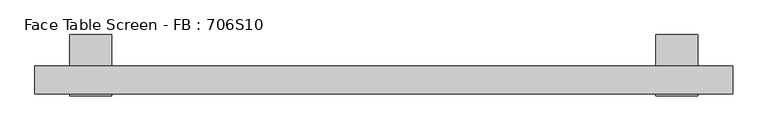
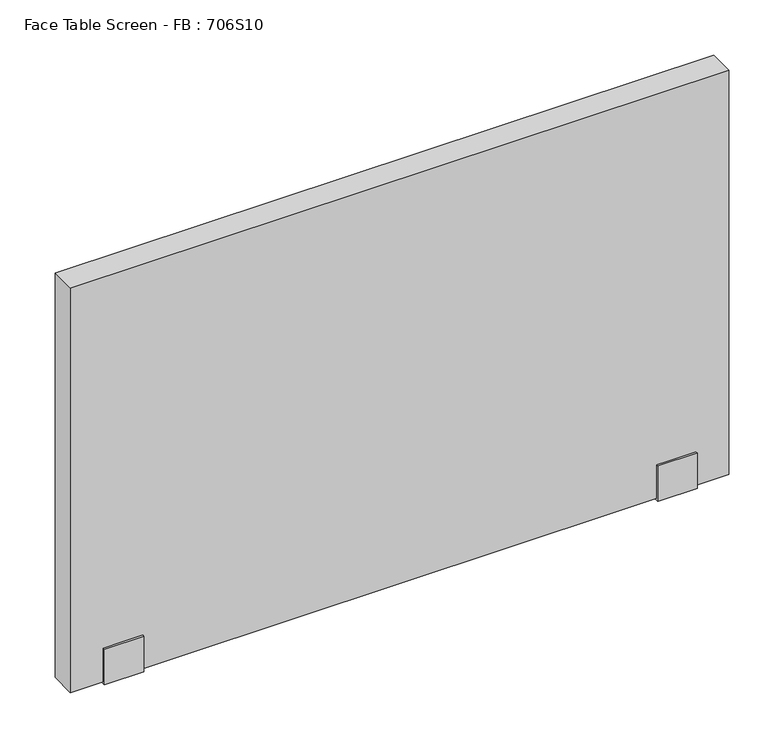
"""IFC4 building model written with IfcOpenShell, lengths in millimetres: furniture geometry, Face Table Screen - FB : 706S10."""

from ifc_helpers import new_model, si_unit, frame, origin, place, context, project, spatial, polyline, outline, extrude, source, transform, mapped, element, save


def face_table_screen_fb_706s10_e50b1dd3(model_context):
    return source(origin(), model_context, "Body", "SweptSolid", [
        extrude(outline(polyline([(-42.9999947, -256.0), (-42.9999997, -199.0433898), (-40.0, -199.0433898), (-40.0, -253.0), (0.0, -253.0), (0.0, -22.0), (45.0, -22.0), (45.0, -25.0433898), (3.0000062, -25.0433898), (2.9999947, -256.0), (-42.9999947, -256.0)])), frame((409.9863751, 0.0, 0.0), z_axis=(1.0, 0.0, 0.0), x_axis=(0.0, 1.0, 0.0)), (0.0, 0.0, 1.0), 60.0),
        extrude(outline(polyline([(-42.9999947, -256.0), (-42.9999997, -199.0433898), (-40.0, -199.0433898), (-40.0, -253.0), (0.0, -253.0), (0.0, -22.0), (45.0, -22.0), (45.0, -25.0433898), (3.0000062, -25.0433898), (2.9999947, -256.0), (-42.9999947, -256.0)])), frame((-430.0136249, 0.0, 0.0), z_axis=(1.0, 0.0, 0.0), x_axis=(0.0, 1.0, 0.0)), (0.0, 0.0, 1.0), 60.0),
        extrude(outline(polyline([(519.9863751, -40.0), (-480.0136249, -40.0), (-480.0136249, 0.0), (519.9863751, 0.0), (519.9863751, -40.0)])), frame((0.0, 0.0, -253.0), z_axis=(0.0, 0.0, 1.0), x_axis=(1.0, 0.0, 0.0)), (0.0, 0.0, 1.0), 650.0),
    ])


if __name__ == "__main__":
    model = new_model("IFC4")
    model_context = context("Model", 3, world=origin())
    ifc_project = project(units=[si_unit("LENGTHUNIT", "METRE", prefix="MILLI")], contexts=[model_context])
    site = spatial("IfcSite", under=ifc_project)
    building = spatial("IfcBuilding", under=site)
    placement = place(None, origin())
    face_table_screen_fb_706s10_shape = face_table_screen_fb_706s10_e50b1dd3(model_context)
    element("IfcFurniture", 1, ObjectType="Face Table Screen - FB : 706S10", at=placement, inside=building, context=model_context, shape_type="MappedRepresentation", body=[
        mapped(face_table_screen_fb_706s10_shape, transform((0.0, 0.0, 0.0), x_axis=(1.0, 0.0, 0.0), y_axis=(0.0, 1.0, 0.0), z_axis=(0.0, 0.0, 1.0))),
    ])
    save(model, "model.ifc")
